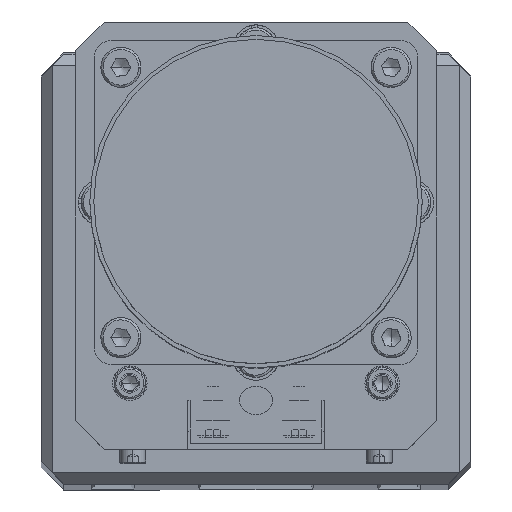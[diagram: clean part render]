
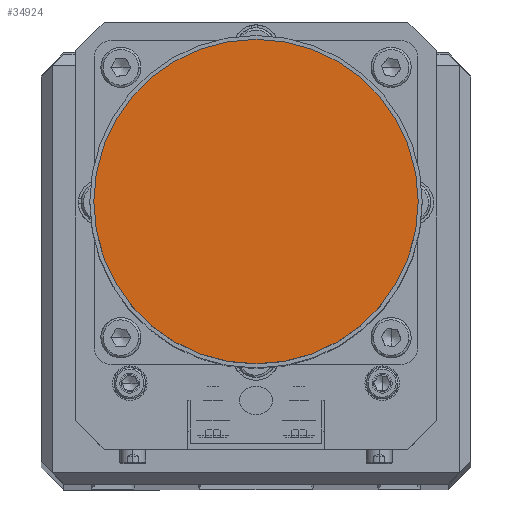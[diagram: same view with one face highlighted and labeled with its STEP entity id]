
A CAD part, top view. The second image highlights one B-rep face of the part: STEP entity #34924.
In plain terms, the highlighted planar face has unit normal (0, 0, 1).
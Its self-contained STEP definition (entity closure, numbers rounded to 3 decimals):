
#1201 = VERTEX_POINT ( 'NONE', #9968 ) ;
#1203 = EDGE_CURVE ( 'NONE', #1201, #1204, #9967, .T. ) ;
#1204 = VERTEX_POINT ( 'NONE', #9962 ) ;
#9962 = CARTESIAN_POINT ( 'NONE',  ( 28.3, -0.273, 189.45 ) ) ;
#9963 = DIRECTION ( 'NONE',  ( 1., 0., 0. ) ) ;
#9964 = DIRECTION ( 'NONE',  ( 0., 0., -1. ) ) ;
#9965 = CARTESIAN_POINT ( 'NONE',  ( 0., -0.273, 189.45 ) ) ;
#9966 = AXIS2_PLACEMENT_3D ( 'NONE', #9965, #9964, #9963 ) ;
#9967 = CIRCLE ( 'NONE', #9966, 28.3 ) ;
#9968 = CARTESIAN_POINT ( 'NONE',  ( -28.3, -0.273, 189.45 ) ) ;
#28665 = DIRECTION ( 'NONE',  ( -1., 0., 0. ) ) ;
#28666 = DIRECTION ( 'NONE',  ( 0., 0., -1. ) ) ;
#28667 = AXIS2_PLACEMENT_3D ( 'NONE', #28675, #28666, #28665 ) ;
#28674 = FACE_OUTER_BOUND ( 'NONE', #34879, .T. ) ;
#28675 = CARTESIAN_POINT ( 'NONE',  ( 0., -0.273, 189.45 ) ) ;
#28677 = PLANE ( 'NONE',  #28667 ) ;
#28718 = DIRECTION ( 'NONE',  ( 1., 0., 0. ) ) ;
#28719 = DIRECTION ( 'NONE',  ( 0., 0., -1. ) ) ;
#28720 = CARTESIAN_POINT ( 'NONE',  ( 0., -0.273, 189.45 ) ) ;
#28721 = AXIS2_PLACEMENT_3D ( 'NONE', #28720, #28719, #28718 ) ;
#28722 = CIRCLE ( 'NONE', #28721, 28.3 ) ;
#34879 = EDGE_LOOP ( 'NONE', ( #34925, #34930 ) ) ;
#34924 = ADVANCED_FACE ( 'NONE', ( #28674 ), #28677, .F. ) ;
#34925 = ORIENTED_EDGE ( 'NONE', *, *, #34928, .F. ) ;
#34928 = EDGE_CURVE ( 'NONE', #1204, #1201, #28722, .T. ) ;
#34930 = ORIENTED_EDGE ( 'NONE', *, *, #1203, .F. ) ;
